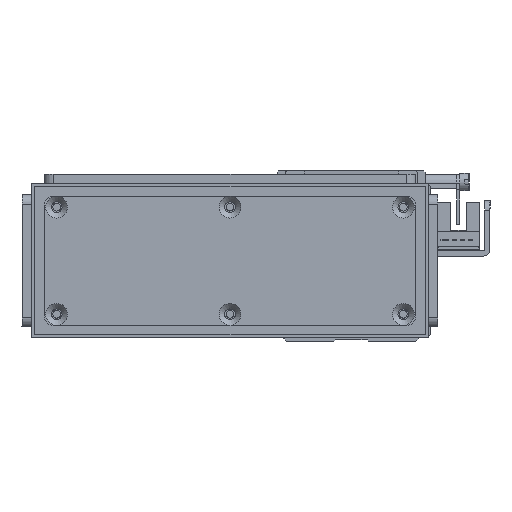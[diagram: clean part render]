
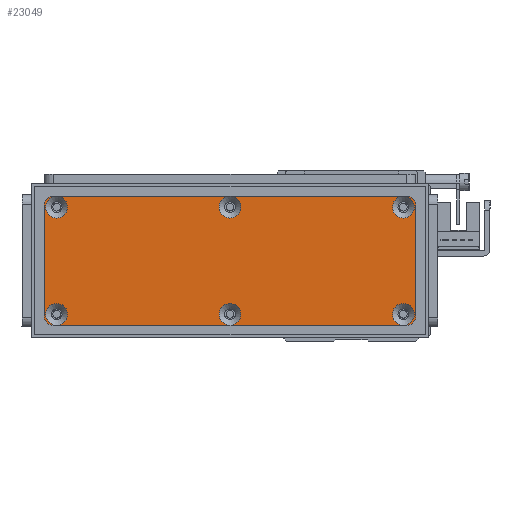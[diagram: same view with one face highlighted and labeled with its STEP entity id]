
A CAD part, front view. The second image highlights one B-rep face of the part: STEP entity #23049.
In plain terms, the highlighted planar face has unit normal (0, -1, 0) as drawn and (0, 0, 1) by its records, which use the part's own axes.
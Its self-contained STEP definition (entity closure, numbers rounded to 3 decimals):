
#863=FACE_BOUND('',#4187,.T.);
#864=FACE_BOUND('',#4188,.T.);
#865=FACE_BOUND('',#4189,.T.);
#866=FACE_BOUND('',#4190,.T.);
#867=FACE_BOUND('',#4191,.T.);
#868=FACE_BOUND('',#4192,.T.);
#1515=PLANE('',#25658);
#2625=FACE_OUTER_BOUND('',#4186,.T.);
#4186=EDGE_LOOP('',(#20474,#20475,#20476,#20477,#20478,#20479,#20480,#20481));
#4187=EDGE_LOOP('',(#20482));
#4188=EDGE_LOOP('',(#20483));
#4189=EDGE_LOOP('',(#20484));
#4190=EDGE_LOOP('',(#20485));
#4191=EDGE_LOOP('',(#20486));
#4192=EDGE_LOOP('',(#20487));
#6259=LINE('',#39488,#8402);
#6263=LINE('',#39500,#8406);
#6267=LINE('',#39512,#8410);
#6271=LINE('',#39522,#8414);
#8402=VECTOR('',#31586,10.);
#8406=VECTOR('',#31598,10.);
#8410=VECTOR('',#31610,10.);
#8414=VECTOR('',#31622,10.);
#9503=CIRCLE('',#25612,3.45);
#9506=CIRCLE('',#25617,3.45);
#9509=CIRCLE('',#25622,3.45);
#9512=CIRCLE('',#25627,3.45);
#9515=CIRCLE('',#25632,3.45);
#9518=CIRCLE('',#25637,3.45);
#9522=CIRCLE('',#25643,3.);
#9524=CIRCLE('',#25647,3.);
#9526=CIRCLE('',#25651,3.);
#9528=CIRCLE('',#25655,3.);
#11490=VERTEX_POINT('',#39416);
#11493=VERTEX_POINT('',#39426);
#11496=VERTEX_POINT('',#39436);
#11499=VERTEX_POINT('',#39446);
#11502=VERTEX_POINT('',#39456);
#11505=VERTEX_POINT('',#39466);
#11510=VERTEX_POINT('',#39479);
#11511=VERTEX_POINT('',#39481);
#11513=VERTEX_POINT('',#39487);
#11515=VERTEX_POINT('',#39493);
#11517=VERTEX_POINT('',#39499);
#11519=VERTEX_POINT('',#39505);
#11521=VERTEX_POINT('',#39511);
#11523=VERTEX_POINT('',#39517);
#14515=EDGE_CURVE('',#11490,#11490,#9503,.T.);
#14520=EDGE_CURVE('',#11493,#11493,#9506,.T.);
#14525=EDGE_CURVE('',#11496,#11496,#9509,.T.);
#14530=EDGE_CURVE('',#11499,#11499,#9512,.T.);
#14535=EDGE_CURVE('',#11502,#11502,#9515,.T.);
#14540=EDGE_CURVE('',#11505,#11505,#9518,.T.);
#14547=EDGE_CURVE('',#11511,#11510,#9522,.T.);
#14550=EDGE_CURVE('',#11513,#11511,#6259,.T.);
#14553=EDGE_CURVE('',#11515,#11513,#9524,.T.);
#14556=EDGE_CURVE('',#11517,#11515,#6263,.T.);
#14559=EDGE_CURVE('',#11519,#11517,#9526,.T.);
#14562=EDGE_CURVE('',#11521,#11519,#6267,.T.);
#14565=EDGE_CURVE('',#11523,#11521,#9528,.T.);
#14568=EDGE_CURVE('',#11510,#11523,#6271,.T.);
#20474=ORIENTED_EDGE('',*,*,#14568,.T.);
#20475=ORIENTED_EDGE('',*,*,#14565,.T.);
#20476=ORIENTED_EDGE('',*,*,#14562,.T.);
#20477=ORIENTED_EDGE('',*,*,#14559,.T.);
#20478=ORIENTED_EDGE('',*,*,#14556,.T.);
#20479=ORIENTED_EDGE('',*,*,#14553,.T.);
#20480=ORIENTED_EDGE('',*,*,#14550,.T.);
#20481=ORIENTED_EDGE('',*,*,#14547,.T.);
#20482=ORIENTED_EDGE('',*,*,#14515,.T.);
#20483=ORIENTED_EDGE('',*,*,#14520,.T.);
#20484=ORIENTED_EDGE('',*,*,#14525,.T.);
#20485=ORIENTED_EDGE('',*,*,#14530,.T.);
#20486=ORIENTED_EDGE('',*,*,#14535,.T.);
#20487=ORIENTED_EDGE('',*,*,#14540,.T.);
#23049=ADVANCED_FACE('',(#2625,#863,#864,#865,#866,#867,#868),#1515,.T.);
#25612=AXIS2_PLACEMENT_3D('',#39417,#31505,#31506);
#25617=AXIS2_PLACEMENT_3D('',#39427,#31517,#31518);
#25622=AXIS2_PLACEMENT_3D('',#39437,#31529,#31530);
#25627=AXIS2_PLACEMENT_3D('',#39447,#31541,#31542);
#25632=AXIS2_PLACEMENT_3D('',#39457,#31553,#31554);
#25637=AXIS2_PLACEMENT_3D('',#39467,#31565,#31566);
#25643=AXIS2_PLACEMENT_3D('',#39482,#31580,#31581);
#25647=AXIS2_PLACEMENT_3D('',#39494,#31592,#31593);
#25651=AXIS2_PLACEMENT_3D('',#39506,#31604,#31605);
#25655=AXIS2_PLACEMENT_3D('',#39518,#31616,#31617);
#25658=AXIS2_PLACEMENT_3D('',#39524,#31625,#31626);
#31505=DIRECTION('center_axis',(0.,0.,-1.));
#31506=DIRECTION('ref_axis',(1.,0.,0.));
#31517=DIRECTION('center_axis',(0.,0.,-1.));
#31518=DIRECTION('ref_axis',(1.,0.,0.));
#31529=DIRECTION('center_axis',(0.,0.,-1.));
#31530=DIRECTION('ref_axis',(1.,0.,0.));
#31541=DIRECTION('center_axis',(0.,0.,-1.));
#31542=DIRECTION('ref_axis',(1.,0.,0.));
#31553=DIRECTION('center_axis',(0.,0.,-1.));
#31554=DIRECTION('ref_axis',(1.,0.,0.));
#31565=DIRECTION('center_axis',(0.,0.,-1.));
#31566=DIRECTION('ref_axis',(1.,0.,0.));
#31580=DIRECTION('center_axis',(0.,0.,1.));
#31581=DIRECTION('ref_axis',(-1.,0.,0.));
#31586=DIRECTION('',(0.,1.,0.));
#31592=DIRECTION('center_axis',(0.,0.,1.));
#31593=DIRECTION('ref_axis',(0.,1.,0.));
#31598=DIRECTION('',(1.,0.,0.));
#31604=DIRECTION('center_axis',(0.,0.,1.));
#31605=DIRECTION('ref_axis',(1.,0.,0.));
#31610=DIRECTION('',(0.,-1.,0.));
#31616=DIRECTION('center_axis',(0.,0.,1.));
#31617=DIRECTION('ref_axis',(0.,-1.,0.));
#31622=DIRECTION('',(-1.,0.,0.));
#31625=DIRECTION('center_axis',(0.,0.,1.));
#31626=DIRECTION('ref_axis',(1.,0.,0.));
#39416=CARTESIAN_POINT('',(110.55,3.5,3.));
#39417=CARTESIAN_POINT('Origin',(114.,3.5,3.));
#39426=CARTESIAN_POINT('',(55.55,37.5,3.));
#39427=CARTESIAN_POINT('Origin',(59.,37.5,3.));
#39436=CARTESIAN_POINT('',(55.55,3.5,3.));
#39437=CARTESIAN_POINT('Origin',(59.,3.5,3.));
#39446=CARTESIAN_POINT('',(0.55,37.5,3.));
#39447=CARTESIAN_POINT('Origin',(4.,37.5,3.));
#39456=CARTESIAN_POINT('',(110.55,37.5,3.));
#39457=CARTESIAN_POINT('Origin',(114.,37.5,3.));
#39466=CARTESIAN_POINT('',(0.55,3.5,3.));
#39467=CARTESIAN_POINT('Origin',(4.,3.5,3.));
#39479=CARTESIAN_POINT('',(115.,41.,3.));
#39481=CARTESIAN_POINT('',(118.,38.,3.));
#39482=CARTESIAN_POINT('Origin',(115.,38.,3.));
#39487=CARTESIAN_POINT('',(118.,3.,3.));
#39488=CARTESIAN_POINT('',(118.,38.,3.));
#39493=CARTESIAN_POINT('',(115.,0.,3.));
#39494=CARTESIAN_POINT('Origin',(115.,3.,3.));
#39499=CARTESIAN_POINT('',(3.,0.,3.));
#39500=CARTESIAN_POINT('',(115.,0.,3.));
#39505=CARTESIAN_POINT('',(0.,3.,3.));
#39506=CARTESIAN_POINT('Origin',(3.,3.,3.));
#39511=CARTESIAN_POINT('',(0.,38.,3.));
#39512=CARTESIAN_POINT('',(0.,3.,3.));
#39517=CARTESIAN_POINT('',(3.,41.,3.));
#39518=CARTESIAN_POINT('Origin',(3.,38.,3.));
#39522=CARTESIAN_POINT('',(3.,41.,3.));
#39524=CARTESIAN_POINT('Origin',(59.,20.5,3.));
